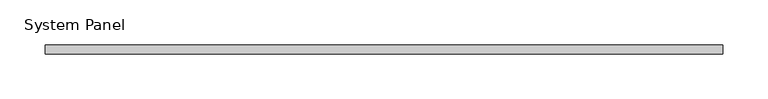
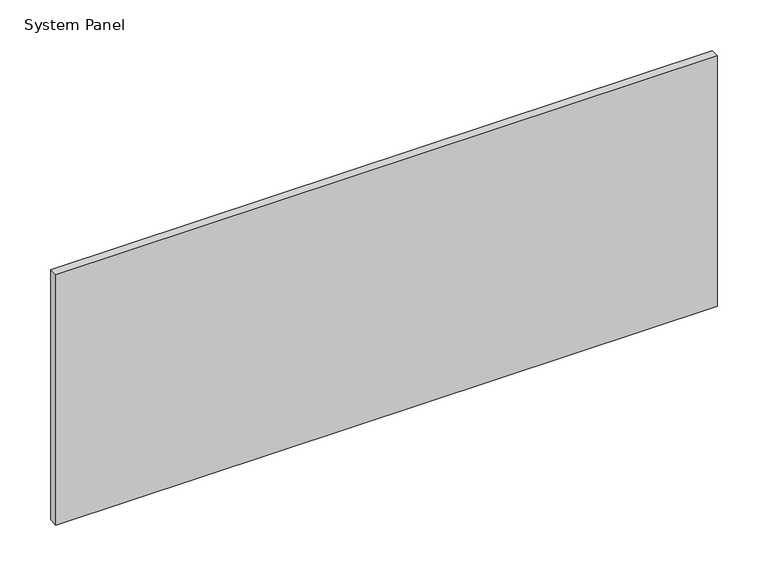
"""IFC4 building model written with IfcOpenShell, lengths in millimetres: plate geometry, System Panel : стекло_смещение_0."""

from ifc_helpers import new_model, si_unit, origin, origin_with_axes, place, context, project, spatial, polyline, outline, extrude, source, transform, mapped, element, save


def system_panel_587c1967(model_context):
    return source(origin(), model_context, "Body", "SweptSolid", [
        extrude(outline(polyline([(375.0, -5.0), (-375.0, -5.0), (-375.0, 5.0), (375.0, 5.0), (375.0, -5.0)])), origin_with_axes(), (0.0, 0.0, 1.0), 300.0),
    ])


if __name__ == "__main__":
    model = new_model("IFC4")
    model_context = context("Model", 3, world=origin())
    ifc_project = project(units=[si_unit("LENGTHUNIT", "METRE", prefix="MILLI")], contexts=[model_context])
    site = spatial("IfcSite", under=ifc_project)
    building = spatial("IfcBuilding", under=site)
    placement = place(None, origin())
    system_panel_shape = system_panel_587c1967(model_context)
    element("IfcPlate", 1, ObjectType="System Panel : стекло_смещение_0", at=placement, inside=building, context=model_context, shape_type="MappedRepresentation", body=[
        mapped(system_panel_shape, transform((0.0, 0.0, 0.0), x_axis=(1.0, 0.0, 0.0), y_axis=(0.0, 1.0, 0.0), z_axis=(0.0, 0.0, 1.0))),
    ])
    save(model, "model.ifc")
